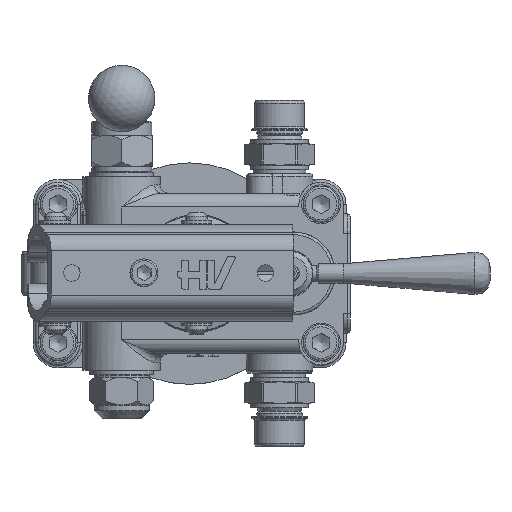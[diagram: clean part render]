
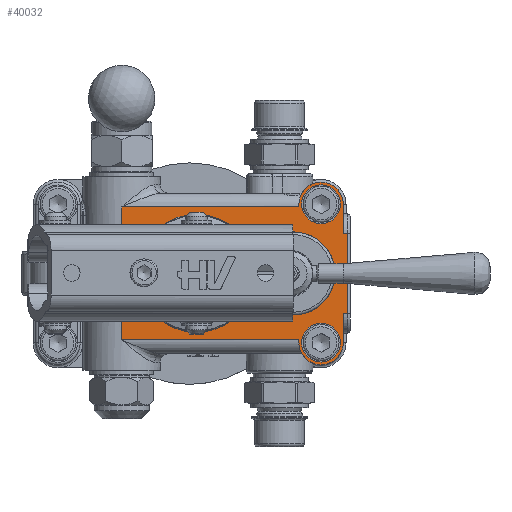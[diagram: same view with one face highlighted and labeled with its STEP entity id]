
A CAD part, top view. The second image highlights one B-rep face of the part: STEP entity #40032.
In plain terms, the highlighted planar face has unit normal (0, 0, 1).
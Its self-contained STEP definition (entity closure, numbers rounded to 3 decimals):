
#18260=CARTESIAN_POINT('',(56.232,52.799,43.));
#18261=VERTEX_POINT('',#18260);
#18262=CARTESIAN_POINT('',(59.0,34.,43.));
#18263=DIRECTION('',(0.,0.,-1.0));
#18264=DIRECTION('',(0.146,-0.989,0.));
#18265=AXIS2_PLACEMENT_3D('',#18262,#18263,#18264);
#18266=CIRCLE('',#18265,19.002);
#18267=EDGE_CURVE('',#18261,#18261,#18266,.T.);
#38375=CARTESIAN_POINT('',(96.,58.,43.));
#38376=VERTEX_POINT('',#38375);
#38384=CARTESIAN_POINT('',(96.,59.,43.));
#38385=VERTEX_POINT('',#38384);
#38386=CARTESIAN_POINT('',(96.,58.,43.));
#38387=DIRECTION('',(0.0,1.0,0.0));
#38388=VECTOR('',#38387,1.);
#38389=LINE('',#38386,#38388);
#38390=EDGE_CURVE('',#38376,#38385,#38389,.T.);
#38406=CARTESIAN_POINT('',(96.0,10.0,43.));
#38407=VERTEX_POINT('',#38406);
#38417=CARTESIAN_POINT('',(96.0,9.,43.));
#38418=VERTEX_POINT('',#38417);
#38425=CARTESIAN_POINT('',(96.,9.,43.));
#38426=DIRECTION('',(0.0,1.0,0.0));
#38427=VECTOR('',#38426,1.);
#38428=LINE('',#38425,#38427);
#38429=EDGE_CURVE('',#38418,#38407,#38428,.T.);
#38588=CARTESIAN_POINT('',(32.,44.122,43.));
#38589=VERTEX_POINT('',#38588);
#38638=CARTESIAN_POINT('',(33.732,41.0,43.));
#38639=VERTEX_POINT('',#38638);
#38647=CARTESIAN_POINT('',(33.732,41.0,43.));
#38648=CARTESIAN_POINT('',(33.732,41.528,43.));
#38649=CARTESIAN_POINT('',(33.438,42.767,43.));
#38650=CARTESIAN_POINT('',(32.582,43.719,43.));
#38651=CARTESIAN_POINT('',(32.,44.122,43.));
#38652=B_SPLINE_CURVE_WITH_KNOTS('',3,(#38647,#38648,#38649,#38650,#38651),.UNSPECIFIED.,.F.,.U.,(4,1,4),(2.696,2.855,3.066),.UNSPECIFIED.);
#38653=EDGE_CURVE('',#38639,#38589,#38652,.T.);
#38665=CARTESIAN_POINT('',(33.732,27.,43.));
#38666=VERTEX_POINT('',#38665);
#38674=CARTESIAN_POINT('',(33.732,27.,43.));
#38675=DIRECTION('',(0.0,1.0,0.0));
#38676=VECTOR('',#38675,14.);
#38677=LINE('',#38674,#38676);
#38678=EDGE_CURVE('',#38666,#38639,#38677,.T.);
#38711=CARTESIAN_POINT('',(32.,23.878,43.));
#38712=VERTEX_POINT('',#38711);
#38720=CARTESIAN_POINT('',(32.,23.878,43.));
#38721=CARTESIAN_POINT('',(32.433,24.178,43.));
#38722=CARTESIAN_POINT('',(33.336,25.067,43.));
#38723=CARTESIAN_POINT('',(33.732,26.29,43.0));
#38724=CARTESIAN_POINT('',(33.732,27.,43.));
#38725=B_SPLINE_CURVE_WITH_KNOTS('',3,(#38720,#38721,#38722,#38723,#38724),.UNSPECIFIED.,.F.,.U.,(4,1,4),(2.696,2.854,3.065),.UNSPECIFIED.);
#38726=EDGE_CURVE('',#38712,#38666,#38725,.T.);
#39430=CARTESIAN_POINT('',(112.0,59.,43.));
#39431=VERTEX_POINT('',#39430);
#39438=CARTESIAN_POINT('',(112.,48.5,43.));
#39439=VERTEX_POINT('',#39438);
#39440=CARTESIAN_POINT('',(112.0,59.,43.));
#39441=DIRECTION('',(0.0,-1.0,0.0));
#39442=VECTOR('',#39441,10.5);
#39443=LINE('',#39440,#39442);
#39444=EDGE_CURVE('',#39431,#39439,#39443,.T.);
#39559=CARTESIAN_POINT('',(112.0,19.5,43.));
#39560=VERTEX_POINT('',#39559);
#39568=CARTESIAN_POINT('',(112.,9.,43.));
#39569=VERTEX_POINT('',#39568);
#39570=CARTESIAN_POINT('',(112.,19.5,43.));
#39571=DIRECTION('',(0.0,-1.0,0.0));
#39572=VECTOR('',#39571,10.5);
#39573=LINE('',#39570,#39572);
#39574=EDGE_CURVE('',#39560,#39569,#39573,.T.);
#39897=CARTESIAN_POINT('',(113.5,48.5,43.));
#39898=VERTEX_POINT('',#39897);
#39908=CARTESIAN_POINT('',(112.,48.5,43.));
#39909=DIRECTION('',(1.0,0.0,0.0));
#39910=VECTOR('',#39909,1.5);
#39911=LINE('',#39908,#39910);
#39912=EDGE_CURVE('',#39439,#39898,#39911,.T.);
#39917=CARTESIAN_POINT('',(104.,34.,43.));
#39918=DIRECTION('',(0.0,0.0,1.0));
#39919=DIRECTION('',(1.0,0.0,0.0));
#39920=AXIS2_PLACEMENT_3D('',#39917,#39918,#39919);
#39921=PLANE('',#39920);
#39922=CARTESIAN_POINT('',(113.5,19.5,43.));
#39923=VERTEX_POINT('',#39922);
#39924=CARTESIAN_POINT('',(113.5,48.5,43.));
#39925=DIRECTION('',(0.0,-1.0,0.0));
#39926=VECTOR('',#39925,29.);
#39927=LINE('',#39924,#39926);
#39928=EDGE_CURVE('',#39898,#39923,#39927,.T.);
#39929=ORIENTED_EDGE('',*,*,#39928,.F.);
#39930=ORIENTED_EDGE('',*,*,#39912,.F.);
#39931=ORIENTED_EDGE('',*,*,#39444,.F.);
#39932=CARTESIAN_POINT('',(104.,59.,43.));
#39933=DIRECTION('',(0.0,0.0,-1.0));
#39934=DIRECTION('',(1.0,0.0,0.0));
#39935=AXIS2_PLACEMENT_3D('',#39932,#39933,#39934);
#39936=CIRCLE('',#39935,8.0);
#39937=EDGE_CURVE('',#38385,#39431,#39936,.T.);
#39938=ORIENTED_EDGE('',*,*,#39937,.F.);
#39939=ORIENTED_EDGE('',*,*,#38390,.F.);
#39940=CARTESIAN_POINT('',(32.,58.,43.));
#39941=VERTEX_POINT('',#39940);
#39942=CARTESIAN_POINT('',(96.,58.,43.));
#39943=DIRECTION('',(-1.0,0.0,0.0));
#39944=VECTOR('',#39943,64.);
#39945=LINE('',#39942,#39944);
#39946=EDGE_CURVE('',#38376,#39941,#39945,.T.);
#39947=ORIENTED_EDGE('',*,*,#39946,.T.);
#39948=CARTESIAN_POINT('',(32.0,44.122,43.0));
#39949=DIRECTION('',(0.0,1.0,0.0));
#39950=VECTOR('',#39949,13.878);
#39951=LINE('',#39948,#39950);
#39952=EDGE_CURVE('',#38589,#39941,#39951,.T.);
#39953=ORIENTED_EDGE('',*,*,#39952,.F.);
#39954=ORIENTED_EDGE('',*,*,#38653,.F.);
#39955=ORIENTED_EDGE('',*,*,#38678,.F.);
#39956=ORIENTED_EDGE('',*,*,#38726,.F.);
#39957=CARTESIAN_POINT('',(32.,10.0,43.));
#39958=VERTEX_POINT('',#39957);
#39959=CARTESIAN_POINT('',(32.0,10.,43.0));
#39960=DIRECTION('',(0.0,1.0,0.0));
#39961=VECTOR('',#39960,13.878);
#39962=LINE('',#39959,#39961);
#39963=EDGE_CURVE('',#39958,#38712,#39962,.T.);
#39964=ORIENTED_EDGE('',*,*,#39963,.F.);
#39965=CARTESIAN_POINT('',(96.0,10.0,43.));
#39966=DIRECTION('',(-1.0,0.0,0.0));
#39967=VECTOR('',#39966,64.);
#39968=LINE('',#39965,#39967);
#39969=EDGE_CURVE('',#38407,#39958,#39968,.T.);
#39970=ORIENTED_EDGE('',*,*,#39969,.F.);
#39971=ORIENTED_EDGE('',*,*,#38429,.F.);
#39972=CARTESIAN_POINT('',(104.0,9.,43.));
#39973=DIRECTION('',(0.0,0.0,-1.0));
#39974=DIRECTION('',(-1.0,0.0,0.0));
#39975=AXIS2_PLACEMENT_3D('',#39972,#39973,#39974);
#39976=CIRCLE('',#39975,8.0);
#39977=EDGE_CURVE('',#39569,#38418,#39976,.T.);
#39978=ORIENTED_EDGE('',*,*,#39977,.F.);
#39979=ORIENTED_EDGE('',*,*,#39574,.F.);
#39980=CARTESIAN_POINT('',(112.0,19.5,43.));
#39981=DIRECTION('',(1.0,0.0,0.0));
#39982=VECTOR('',#39981,1.5);
#39983=LINE('',#39980,#39982);
#39984=EDGE_CURVE('',#39560,#39923,#39983,.T.);
#39985=ORIENTED_EDGE('',*,*,#39984,.T.);
#39986=EDGE_LOOP('',(#39929,#39930,#39931,#39938,#39939,#39947,#39953,#39954,#39955,#39956,#39964,#39970,#39971,#39978,#39979,#39985));
#39987=FACE_OUTER_BOUND('',#39986,.T.);
#39988=ORIENTED_EDGE('',*,*,#18267,.T.);
#39989=EDGE_LOOP('',(#39988));
#39990=FACE_BOUND('',#39989,.T.);
#39991=CARTESIAN_POINT('',(111.,59.,43.));
#39992=VERTEX_POINT('',#39991);
#39993=CARTESIAN_POINT('',(104.,59.,43.));
#39994=DIRECTION('',(0.0,0.0,-1.0));
#39995=DIRECTION('',(1.0,0.0,0.0));
#39996=AXIS2_PLACEMENT_3D('',#39993,#39994,#39995);
#39997=CIRCLE('',#39996,7.);
#39998=EDGE_CURVE('',#39992,#39992,#39997,.T.);
#39999=ORIENTED_EDGE('',*,*,#39998,.T.);
#40000=EDGE_LOOP('',(#39999));
#40001=FACE_BOUND('',#40000,.T.);
#40002=CARTESIAN_POINT('',(111.0,9.,43.));
#40003=VERTEX_POINT('',#40002);
#40004=CARTESIAN_POINT('',(104.0,9.,43.));
#40005=DIRECTION('',(0.0,0.0,-1.0));
#40006=DIRECTION('',(1.0,0.0,0.0));
#40007=AXIS2_PLACEMENT_3D('',#40004,#40005,#40006);
#40008=CIRCLE('',#40007,7.);
#40009=EDGE_CURVE('',#40003,#40003,#40008,.T.);
#40010=ORIENTED_EDGE('',*,*,#40009,.T.);
#40011=EDGE_LOOP('',(#40010));
#40012=FACE_BOUND('',#40011,.T.);
#40013=CARTESIAN_POINT('',(83.0,44.198,43.));
#40014=VERTEX_POINT('',#40013);
#40015=CARTESIAN_POINT('',(83.0,23.802,43.));
#40016=VERTEX_POINT('',#40015);
#40017=CARTESIAN_POINT('',(94.,34.0,43.));
#40018=DIRECTION('',(0.0,0.0,-1.0));
#40019=DIRECTION('',(-1.0,0.0,0.0));
#40020=AXIS2_PLACEMENT_3D('',#40017,#40018,#40019);
#40021=CIRCLE('',#40020,15.0);
#40022=EDGE_CURVE('',#40014,#40016,#40021,.T.);
#40023=ORIENTED_EDGE('',*,*,#40022,.T.);
#40024=CARTESIAN_POINT('',(83.0,23.802,43.));
#40025=DIRECTION('',(0.0,1.0,0.0));
#40026=VECTOR('',#40025,20.396);
#40027=LINE('',#40024,#40026);
#40028=EDGE_CURVE('',#40016,#40014,#40027,.T.);
#40029=ORIENTED_EDGE('',*,*,#40028,.T.);
#40030=EDGE_LOOP('',(#40023,#40029));
#40031=FACE_BOUND('',#40030,.T.);
#40032=ADVANCED_FACE('',(#39987,#39990,#40001,#40012,#40031),#39921,.T.);
